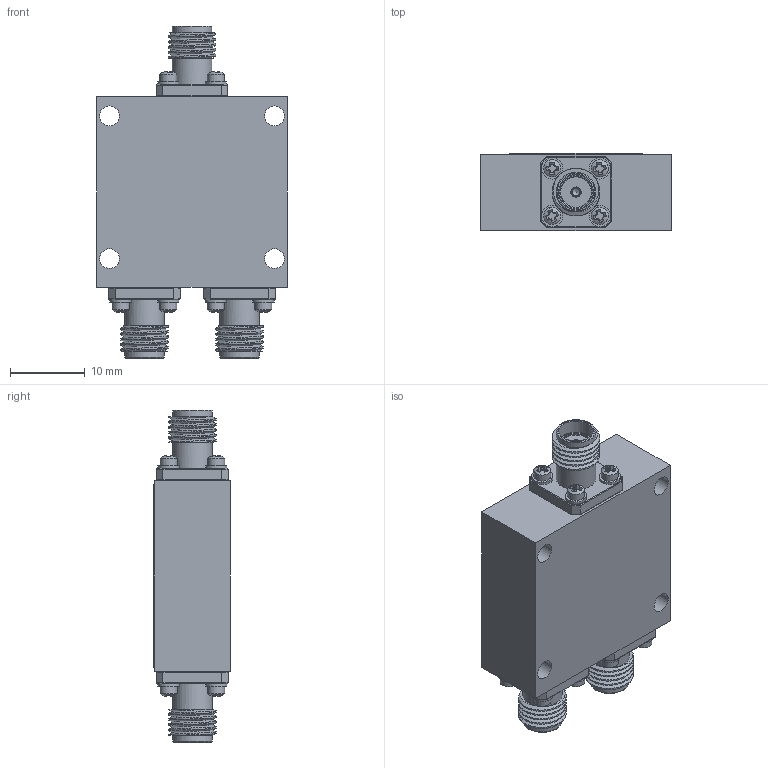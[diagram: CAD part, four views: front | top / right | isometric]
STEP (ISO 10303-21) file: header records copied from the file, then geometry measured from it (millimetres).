
FILE_DESCRIPTION (( 'STEP AP214' ), '1' );
FILE_NAME ('APD-2-1D527-292FF.STEP', '2024-10-09T20:38:42', ( '' ), ( '' ), 'SwSTEP 2.0', 'SolidWorks 2024', '' );
FILE_SCHEMA (( 'AUTOMOTIVE_DESIGN' ));
Length unit declared in the file: inch
Products named in the file (1): APD-2-1D527-292FF
Bounding box: 25.4 x 10.26 x 44.3 mm (x, y, z)
Volume: 7381.9 mm3; surface area: 5682.9 mm2
Topology: 44 solids, 44 shells, 832 faces, 3031 edges, 2484 vertices
Faces by surface type: plane 527, cylinder 152, torus 69, cone 66, sphere 12, bspline 6
Full cylindrical faces by diameter (mm): 0.305 x3, 0.381 x3, 0.635 x3, 1.016 x3, 1.27 x3, 1.575 x12, 1.702 x12, 2.286 x12, 2.642 x4, 3.302 x3, 4.191 x6, 4.597 x3, 5.283 x6
Entity records: 50605 total; most frequent: CARTESIAN_POINT 14871, ORIENTED_EDGE 5700, DIRECTION 4346, EDGE_CURVE 2850, VERTEX_POINT 2463, VECTOR 1506, LINE 1506, AXIS2_PLACEMENT_3D 1420
